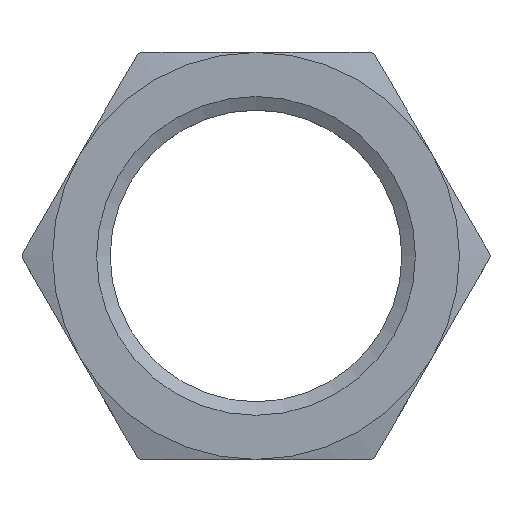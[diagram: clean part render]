
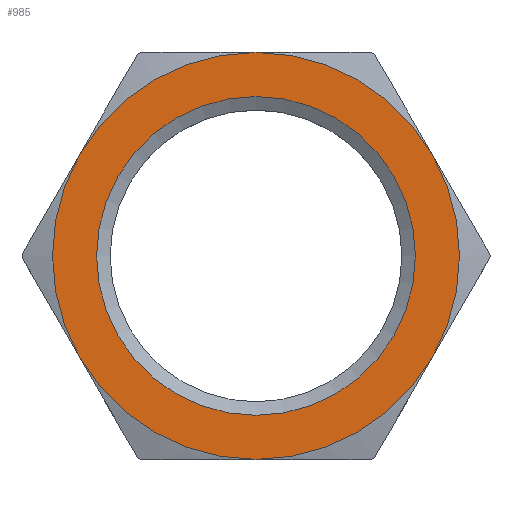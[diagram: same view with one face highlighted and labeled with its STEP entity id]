
A CAD part, top view. The second image highlights one B-rep face of the part: STEP entity #985.
In plain terms, the highlighted planar face has unit normal (0, 0, 1).
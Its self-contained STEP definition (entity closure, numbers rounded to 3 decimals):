
#73=CARTESIAN_POINT('',(-10.392,-6.,4.0));
#74=VERTEX_POINT('',#73);
#157=CARTESIAN_POINT('',(0.,-12.,4.0));
#158=VERTEX_POINT('',#157);
#241=CARTESIAN_POINT('',(10.392,-6.,4.0));
#242=VERTEX_POINT('',#241);
#325=CARTESIAN_POINT('',(10.392,6.,4.0));
#326=VERTEX_POINT('',#325);
#409=CARTESIAN_POINT('',(0.0,12.,4.0));
#410=VERTEX_POINT('',#409);
#493=CARTESIAN_POINT('',(-10.392,6.,4.0));
#494=VERTEX_POINT('',#493);
#586=CARTESIAN_POINT('',(0.0,0.0,4.0));
#587=DIRECTION('',(0.0,0.0,-1.0));
#588=DIRECTION('',(-1.0,0.0,0.0));
#589=AXIS2_PLACEMENT_3D('',#586,#587,#588);
#590=CIRCLE('',#589,12.);
#591=EDGE_CURVE('',#494,#410,#590,.T.);
#610=CARTESIAN_POINT('',(0.0,0.0,4.0));
#611=DIRECTION('',(0.0,0.0,-1.0));
#612=DIRECTION('',(-1.0,0.0,0.0));
#613=AXIS2_PLACEMENT_3D('',#610,#611,#612);
#614=CIRCLE('',#613,12.);
#615=EDGE_CURVE('',#410,#326,#614,.T.);
#626=CARTESIAN_POINT('',(0.0,0.0,4.0));
#627=DIRECTION('',(0.0,0.0,-1.0));
#628=DIRECTION('',(-1.0,0.0,0.0));
#629=AXIS2_PLACEMENT_3D('',#626,#627,#628);
#630=CIRCLE('',#629,12.);
#631=EDGE_CURVE('',#74,#494,#630,.T.);
#650=CARTESIAN_POINT('',(0.0,0.0,4.0));
#651=DIRECTION('',(0.0,0.0,-1.0));
#652=DIRECTION('',(-1.0,0.0,0.0));
#653=AXIS2_PLACEMENT_3D('',#650,#651,#652);
#654=CIRCLE('',#653,12.);
#655=EDGE_CURVE('',#158,#74,#654,.T.);
#674=CARTESIAN_POINT('',(0.0,0.0,4.0));
#675=DIRECTION('',(0.0,0.0,-1.0));
#676=DIRECTION('',(-1.0,0.0,0.0));
#677=AXIS2_PLACEMENT_3D('',#674,#675,#676);
#678=CIRCLE('',#677,12.);
#679=EDGE_CURVE('',#242,#158,#678,.T.);
#951=CARTESIAN_POINT('',(9.4,0.,4.0));
#952=VERTEX_POINT('',#951);
#953=CARTESIAN_POINT('',(0.0,0.0,4.0));
#954=DIRECTION('',(0.0,0.0,1.0));
#955=DIRECTION('',(-1.0,0.0,0.0));
#956=AXIS2_PLACEMENT_3D('',#953,#954,#955);
#957=CIRCLE('',#956,9.4);
#958=EDGE_CURVE('',#952,#952,#957,.T.);
#963=CARTESIAN_POINT('',(0.0,0.0,4.0));
#964=DIRECTION('',(0.0,0.0,-1.0));
#965=DIRECTION('',(-1.0,0.0,0.0));
#966=AXIS2_PLACEMENT_3D('',#963,#964,#965);
#967=PLANE('',#966);
#968=CARTESIAN_POINT('',(0.0,0.0,4.0));
#969=DIRECTION('',(0.0,0.0,-1.0));
#970=DIRECTION('',(-1.0,0.0,0.0));
#971=AXIS2_PLACEMENT_3D('',#968,#969,#970);
#972=CIRCLE('',#971,12.);
#973=EDGE_CURVE('',#326,#242,#972,.T.);
#974=ORIENTED_EDGE('',*,*,#973,.F.);
#975=ORIENTED_EDGE('',*,*,#615,.F.);
#976=ORIENTED_EDGE('',*,*,#591,.F.);
#977=ORIENTED_EDGE('',*,*,#631,.F.);
#978=ORIENTED_EDGE('',*,*,#655,.F.);
#979=ORIENTED_EDGE('',*,*,#679,.F.);
#980=EDGE_LOOP('',(#974,#975,#976,#977,#978,#979));
#981=FACE_OUTER_BOUND('',#980,.T.);
#982=ORIENTED_EDGE('',*,*,#958,.F.);
#983=EDGE_LOOP('',(#982));
#984=FACE_BOUND('',#983,.T.);
#985=ADVANCED_FACE('',(#981,#984),#967,.F.);
